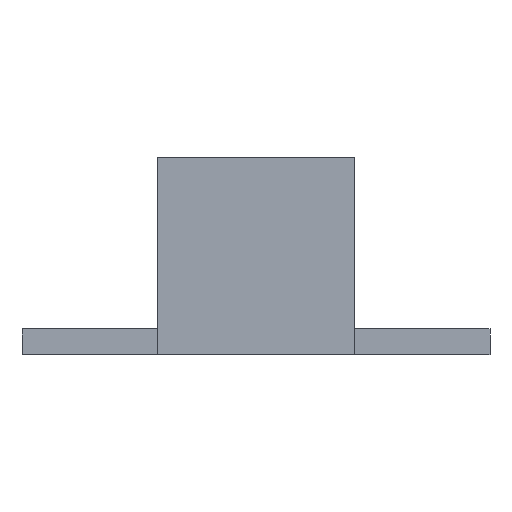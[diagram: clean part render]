
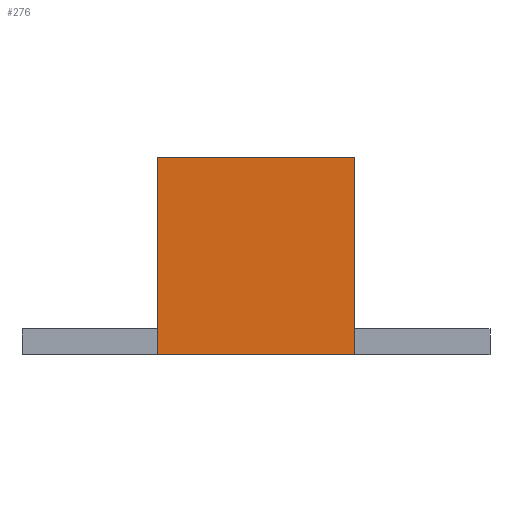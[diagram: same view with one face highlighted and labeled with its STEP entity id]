
A CAD part, top view. The second image highlights one B-rep face of the part: STEP entity #276.
In plain terms, the highlighted planar face has unit normal (0, 0, 1).
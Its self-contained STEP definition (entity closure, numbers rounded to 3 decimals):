
#276=ADVANCED_FACE('',(#446),#448,.T.);
#446=FACE_BOUND('',#447,.T.);
#447=EDGE_LOOP('',(#556,#557,#558,#559));
#448=PLANE('',#449);
#449=AXIS2_PLACEMENT_3D('',#450,#451,#452);
#450=CARTESIAN_POINT('',(0.,0.,5.));
#451=DIRECTION('',(0.,0.,1.));
#452=DIRECTION('',(-1.,0.,0.));
#556=ORIENTED_EDGE('',*,*,#602,.T.);
#557=ORIENTED_EDGE('',*,*,#606,.T.);
#558=ORIENTED_EDGE('',*,*,#609,.T.);
#559=ORIENTED_EDGE('',*,*,#611,.T.);
#602=EDGE_CURVE('',#675,#673,#676,.T.);
#606=EDGE_CURVE('',#673,#680,#682,.T.);
#609=EDGE_CURVE('',#680,#685,#687,.T.);
#611=EDGE_CURVE('',#685,#675,#689,.T.);
#673=VERTEX_POINT('',#825);
#675=VERTEX_POINT('',#829);
#676=LINE('',#830,#831);
#680=VERTEX_POINT('',#839);
#682=B_SPLINE_CURVE_WITH_KNOTS('',1,
(#843,#844),
.UNSPECIFIED.,.F.,.F.,
(2,2),
(0.,1.),
.UNSPECIFIED.);
#685=VERTEX_POINT('',#849);
#687=LINE('',#853,#854);
#689=B_SPLINE_CURVE_WITH_KNOTS('',1,
(#858,#859),
.UNSPECIFIED.,.F.,.F.,
(2,2),
(0.,1.),
.UNSPECIFIED.);
#825=CARTESIAN_POINT('',(4.75,-4.75,5.));
#829=CARTESIAN_POINT('',(-4.75,-4.75,5.));
#830=CARTESIAN_POINT('',(-4.75,-4.75,5.));
#831=VECTOR('',#832,1.);
#832=DIRECTION('',(1.,0.,0.));
#839=CARTESIAN_POINT('',(4.75,4.75,5.));
#843=CARTESIAN_POINT('',(4.75,-4.75,5.));
#844=CARTESIAN_POINT('',(4.75,4.75,5.));
#849=CARTESIAN_POINT('',(-4.75,4.75,5.));
#853=CARTESIAN_POINT('',(4.75,4.75,5.));
#854=VECTOR('',#855,1.);
#855=DIRECTION('',(-1.,0.,0.));
#858=CARTESIAN_POINT('',(-4.75,4.75,5.));
#859=CARTESIAN_POINT('',(-4.75,-4.75,5.));
